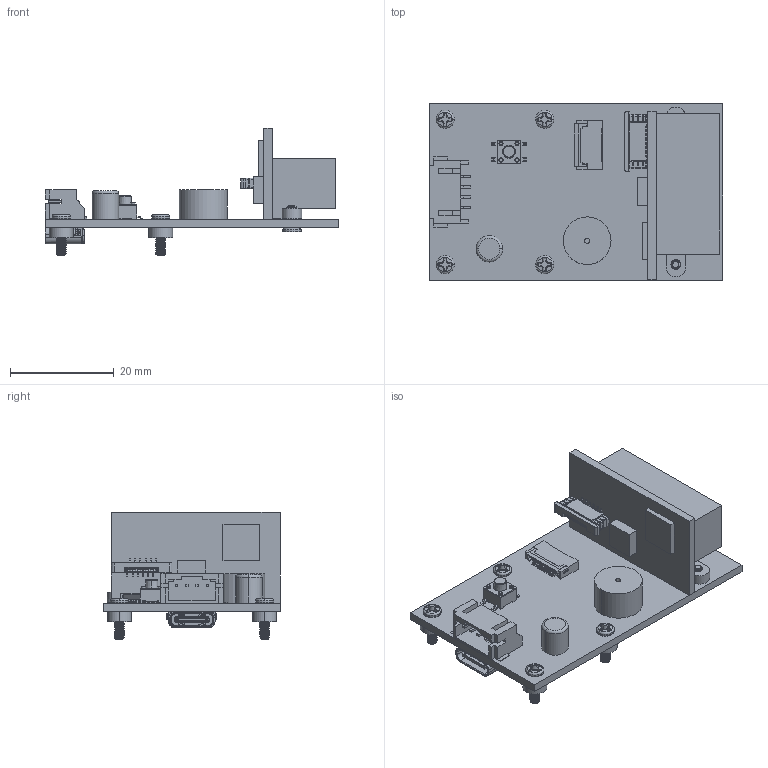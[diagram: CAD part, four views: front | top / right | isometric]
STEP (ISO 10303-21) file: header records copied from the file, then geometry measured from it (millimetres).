
FILE_DESCRIPTION((''),'2;1');
FILE_NAME('BARCODE-SCANNER-MODULE_ASM','2026-01-13T18:15:57',('ag'),(''),'CREO PARAMETRIC BY PTC INC, 2021063','CREO PARAMETRIC BY PTC INC, 2021063','');
FILE_SCHEMA(('CONFIG_CONTROL_DESIGN','SHAPE_APPEARANCE_LAYERS_GROUPS'));
Products named in the file (11): PCB; FPC0_5_2H-S-W-12P-000; SWITCH-4_5X4_5XH4_5; HP2_0-4PIN-SMT-HORIZONTAL; TYPE-C; PM2X7-SCREW; SCANNER-PCB; FPC-SMD_12P-P0_5_H; SCANNER-MODEL_ASM; KM2X5-SCREW; BARCODE-SCANNER-MODULE_ASM
Assembly tree (14 placements, depth 3):
  BARCODE-SCANNER-MODULE_ASM
    PCB
    FPC0_5_2H-S-W-12P-000
    SWITCH-4_5X4_5XH4_5
    HP2_0-4PIN-SMT-HORIZONTAL
    TYPE-C
    PM2X7-SCREW  x4
    SCANNER-MODEL_ASM
      SCANNER-PCB
      FPC-SMD_12P-P0_5_H
    KM2X5-SCREW  x2
Bounding box: 56.5 x 34 x 24.5 mm (x, y, z)
Volume: 7896.7 mm3; surface area: 10138.8 mm2
Topology: 46 solids, 46 shells, 4341 faces, 12760 edges, 8457 vertices
Faces by surface type: plane 2973, cylinder 1076, extrusion 108, cone 80, bspline 66, torus 28, sphere 10
Entity records: 158025 total; most frequent: CARTESIAN_POINT 33876, ORIENTED_EDGE 23890, DIRECTION 21061, EDGE_CURVE 11945, VECTOR 9537, LINE 9429, VERTEX_POINT 7930, AXIS2_PLACEMENT_3D 5762
